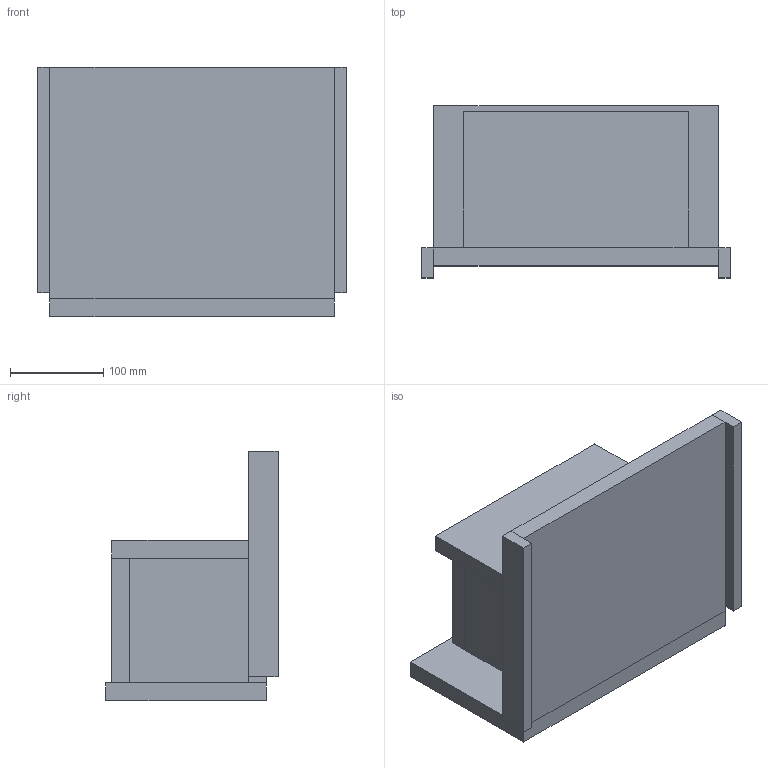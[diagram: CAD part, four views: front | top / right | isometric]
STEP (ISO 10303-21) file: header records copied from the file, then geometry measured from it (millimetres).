
FILE_DESCRIPTION ((), '1');
FILE_NAME ('/Volumes/Data/Drawings/Moi3D/tablesaw tenon jig/tablesaw vertical tenon jig 20210413.stp', '2021-05-30T11:29:05', ('Unknown'), ('Unknown'), 'HarmonyWare STEP v2.1.4', 'HarmonyWare Translators', '');
FILE_SCHEMA (('CONFIG_CONTROL_DESIGN'));
Length unit declared in the file: inch
Products named in the file (9): bottom; vertical side guide; Wood Jig; support top
Assembly tree (8 placements, depth 2):
  (unnamed)
    bottom
    vertical side guide
    Wood Jig
    Wood Jig
    Wood Jig
    Wood Jig
    support top
    Wood Jig
Bounding box: 330.2 x 184.15 x 266.7 mm (x, y, z)
Volume: 4428604 mm3; surface area: 575160.1 mm2
Topology: 8 solids, 8 shells, 48 faces, 108 edges, 76 vertices
Faces by surface type: bspline 48
Entity records: 2430 total; most frequent: CARTESIAN_POINT 500, ORIENTED_EDGE 216, B_SPLINE_CURVE_WITH_KNOTS 108, EDGE_CURVE 108, PERSON 88, ORGANIZATION 88, PERSON_AND_ORGANIZATION 88, VERTEX_POINT 76
